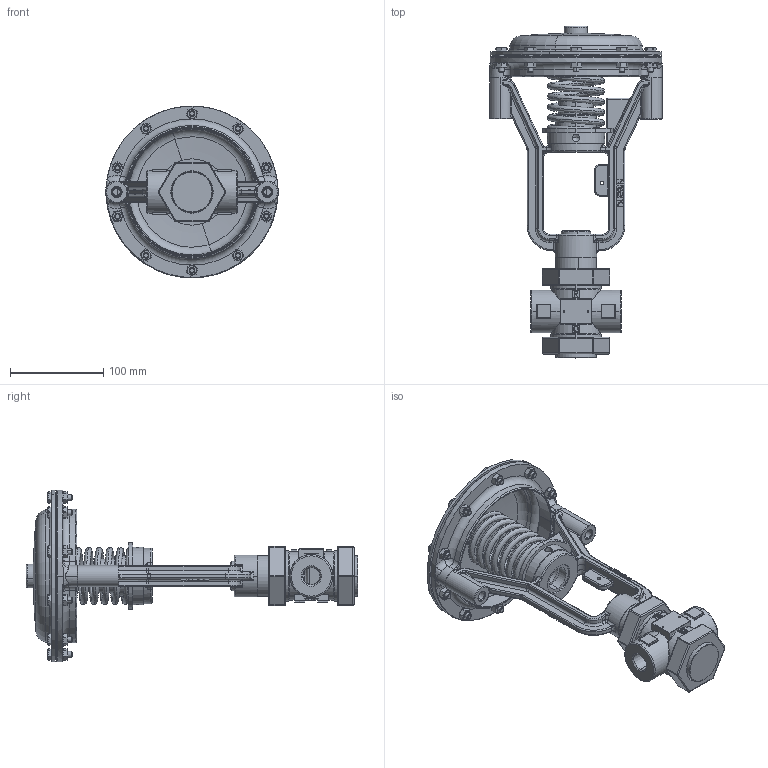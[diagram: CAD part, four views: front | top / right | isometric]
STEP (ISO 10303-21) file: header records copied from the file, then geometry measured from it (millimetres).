
FILE_DESCRIPTION (( 'STEP AP203' ), '1' );
FILE_NAME ('.50-.75 2W NPT VP-STEP.STEP', '2018-11-07T15:52:48', ( '' ), ( '' ), 'SwSTEP 2.0', 'SolidWorks 2012', '' );
FILE_SCHEMA (( 'CONFIG_CONTROL_DESIGN' ));
Length unit declared in the file: inch
Products named in the file (15): .50-.75 2W NPT VP-STEP; H060-03; H096-10; D293-070DR; C133-009D-AL; C543-001D; C293-023DR; D771; C293-023DM; C893-015D-SS; D283-021D-SS; C663-022D-SS; C213-016D-SS; C113-058D-SS; VP400-SS
Assembly tree (33 placements, depth 3):
  .50-.75 2W NPT VP-STEP
    VP400-SS
    C113-058D-SS
    C213-016D-SS
    C663-022D-SS  x2
    D283-021D-SS
    C893-015D-SS
    C293-023DR
      C293-023DM
      D771
    C543-001D
    C133-009D-AL
    D293-070DR
    H096-10  x10
    H060-03  x10
Bounding box: 185.42 x 356.5 x 184.53 mm (x, y, z)
Volume: 746013.8 mm3; surface area: 317048 mm2
Topology: 32 solids, 32 shells, 3282 faces, 7694 edges, 4463 vertices
Faces by surface type: plane 947, cylinder 714, bspline 632, cone 395, torus 299, sphere 295
Entity records: 113954 total; most frequent: CARTESIAN_POINT 61758, ORIENTED_EDGE 11076, DIRECTION 9442, EDGE_CURVE 5538, AXIS2_PLACEMENT_3D 3554, VERTEX_POINT 3419, EDGE_LOOP 2451, LINE 2334
